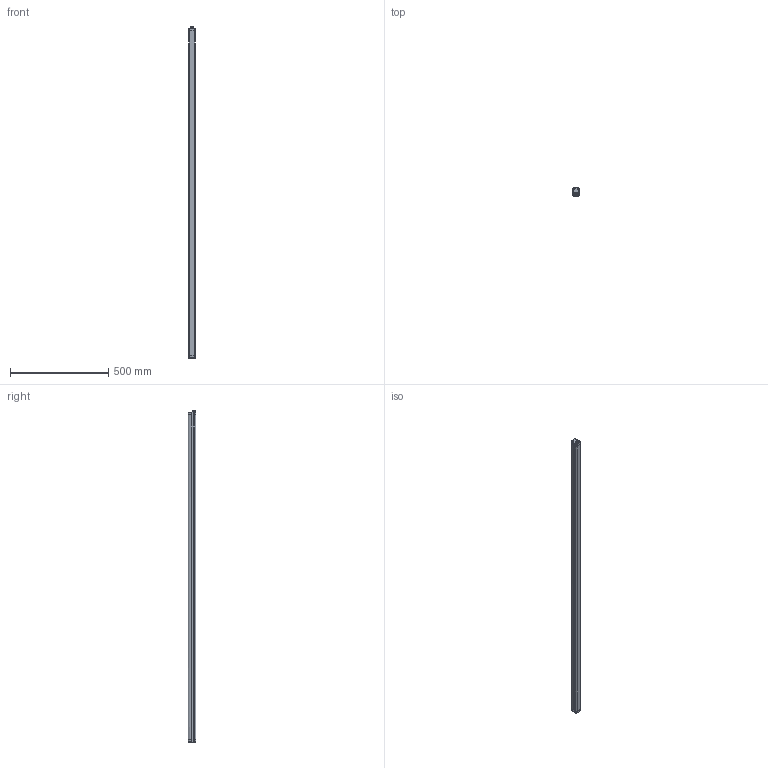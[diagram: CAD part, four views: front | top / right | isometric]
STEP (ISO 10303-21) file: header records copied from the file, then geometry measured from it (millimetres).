
FILE_DESCRIPTION(/* description */ (''),/* implementation_level */ '2;1');
FILE_NAME(/* name */ 'AP021383_00_1-DSD-0975 - DS2-05-07-165 TX.stp',/* time_stamp */ '2019-11-26T14:27:32+01:00',/* author */ (''),/* organization */ (''),/* preprocessor_version */ 'ST-DEVELOPER v16.7',/* originating_system */ 'SIEMENS PLM Software NX 12.0',/* authorisation */ '');
FILE_SCHEMA (('AUTOMOTIVE_DESIGN { 1 0 10303 214 3 1 1 1 }'));
Length unit declared in the file: millimetre
Products named in the file (1): fgut3C702637kge4
Bounding box: 35 x 40.1 x 1687 mm (x, y, z)
Volume: 2032817.3 mm3; surface area: 331634.7 mm2
Topology: 1 solids, 4 shells, 1023 faces, 2681 edges, 1662 vertices
Faces by surface type: plane 394, cylinder 328, bspline 148, cone 99, sphere 32, torus 22
Full cylindrical faces by diameter (mm): 1 x4, 2 x1, 2.4 x2, 2.6 x4, 3 x1, 3.7 x4, 3.8 x4, 4.2 x1, 5 x8, 6 x1, 6.8 x1, 8.3 x1, 10.4 x1, 10.55 x1, 12 x9, 14 x1, 14.5 x1
Entity records: 41033 total; most frequent: CARTESIAN_POINT 12809, ORIENTED_EDGE 5126, DIRECTION 4155, EDGE_CURVE 2563, VERTEX_POINT 1649, AXIS2_PLACEMENT_3D 1616, EDGE_LOOP 1117, ADVANCED_FACE 1015
